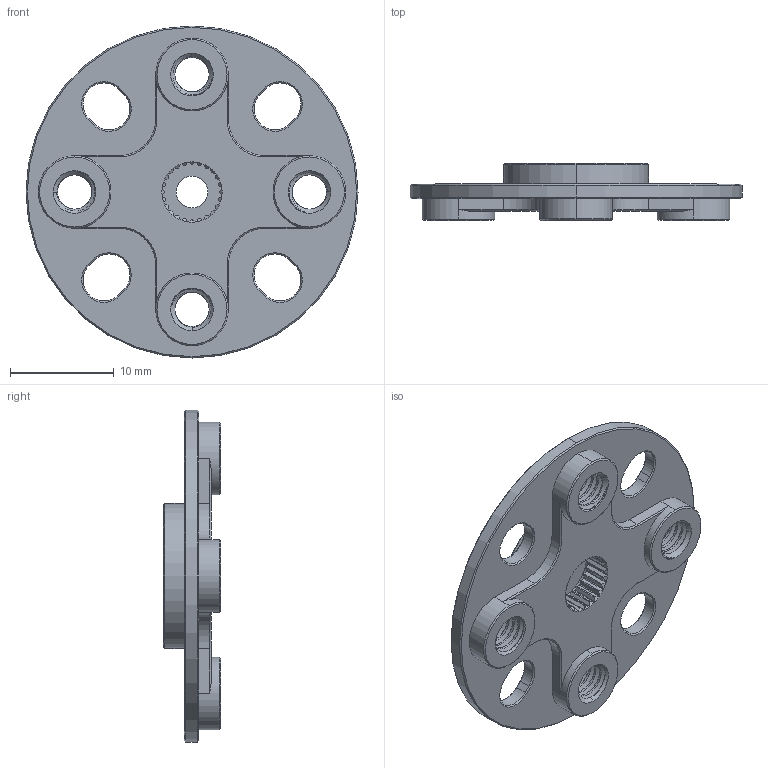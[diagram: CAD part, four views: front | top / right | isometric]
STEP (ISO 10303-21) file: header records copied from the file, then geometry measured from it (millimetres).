
FILE_DESCRIPTION (( 'STEP AP203' ), '1' );
FILE_NAME ('1906-0024-0032.STEP', '2023-07-19T15:21:54', ( '' ), ( '' ), 'SwSTEP 2.0', 'SolidWorks 2016', '' );
FILE_SCHEMA (( 'CONFIG_CONTROL_DESIGN' ));
Length unit declared in the file: millimetre
Products named in the file (1): 1906-0024-0032
Bounding box: 32 x 5.5 x 32 mm (x, y, z)
Volume: 1668.3 mm3; surface area: 2182.9 mm2
Topology: 1 solids, 1 shells, 350 faces, 921 edges, 577 vertices
Faces by surface type: cylinder 161, plane 98, cone 83, bspline 8
Entity records: 20495 total; most frequent: CARTESIAN_POINT 12225, ORIENTED_EDGE 1842, DIRECTION 1636, EDGE_CURVE 921, AXIS2_PLACEMENT_3D 616, VERTEX_POINT 577, VECTOR 404, LINE 404
